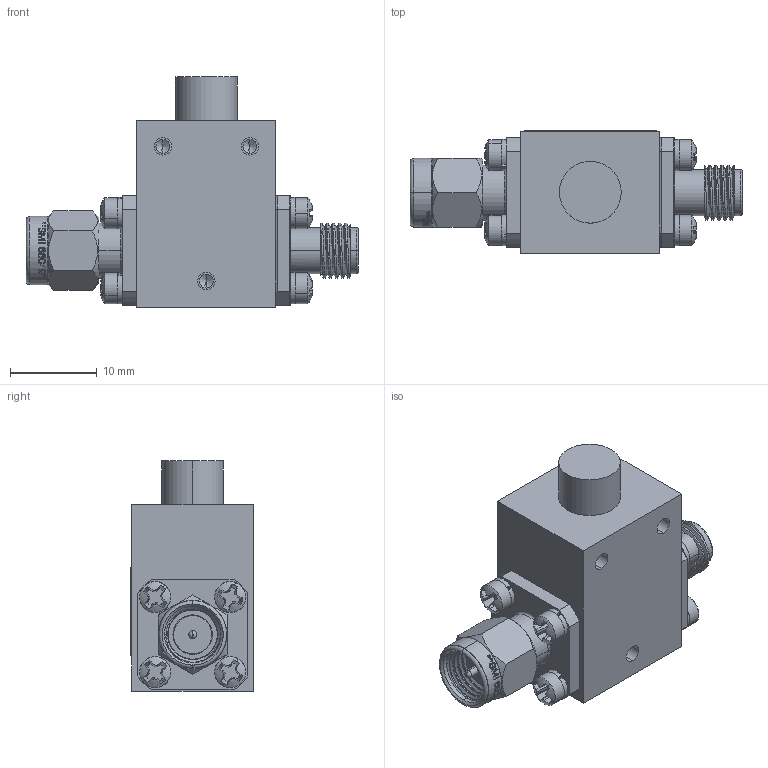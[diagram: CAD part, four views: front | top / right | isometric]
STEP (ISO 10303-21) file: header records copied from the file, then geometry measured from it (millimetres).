
FILE_DESCRIPTION (( 'STEP AP214' ), '1' );
FILE_NAME ('3D Model.STEP', '2024-09-25T12:56:21', ( '' ), ( '' ), 'SwSTEP 2.0', 'SolidWorks 2024', '' );
FILE_SCHEMA (( 'AUTOMOTIVE_DESIGN' ));
Length unit declared in the file: inch
Products named in the file (1): 3D Model
Bounding box: 38.21 x 14.12 x 26.49 mm (x, y, z)
Volume: 6234.5 mm3; surface area: 4958 mm2
Topology: 32 solids, 44 shells, 849 faces, 3164 edges, 2519 vertices
Faces by surface type: plane 389, cylinder 213, bspline 91, cone 84, torus 56, sphere 16
Entity records: 39892 total; most frequent: CARTESIAN_POINT 12722, ORIENTED_EDGE 6308, DIRECTION 4676, EDGE_CURVE 3154, VERTEX_POINT 2519, LINE 1750, VECTOR 1750, AXIS2_PLACEMENT_3D 1463
